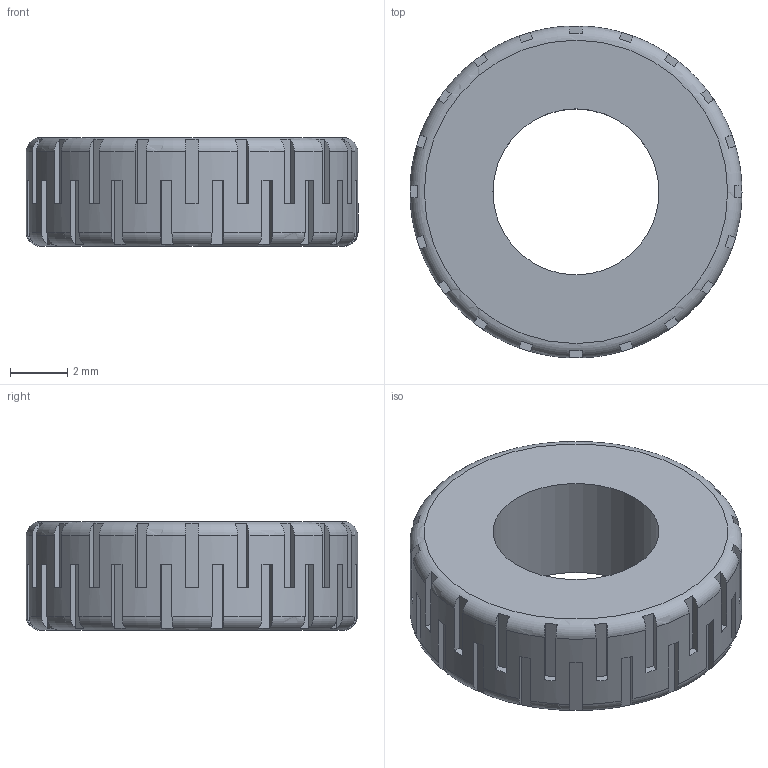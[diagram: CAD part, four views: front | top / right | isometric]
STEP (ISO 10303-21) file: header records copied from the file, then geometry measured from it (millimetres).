
FILE_DESCRIPTION(('Open CASCADE Model'),'2;1');
FILE_NAME('Open CASCADE Shape Model','2026-10-09T16:33:03',('Author'),( 'Open CASCADE'),'Open CASCADE STEP processor 8.0','build123d', 'Unknown');
FILE_SCHEMA(('AUTOMOTIVE_DESIGN { 1 0 10303 214 1 1 1 1 }'));
Length unit declared in the file: millimetre
Products named in the file (1): COMPOUND
Bounding box: 11.6 x 11.6 x 3.8 mm (x, y, z)
Volume: 288.5 mm3; surface area: 394.9 mm2
Topology: 1 solids, 1 shells, 166 faces, 491 edges, 327 vertices
Faces by surface type: plane 162, cylinder 2, torus 2
Full cylindrical faces by diameter (mm): 5.8 x1, 11.6 x1
Entity records: 14275 total; most frequent: CARTESIAN_POINT 5376, DIRECTION 1372, ORIENTED_EDGE 982, PCURVE 982, DEFINITIONAL_REPRESENTATION 982, LINE 817, VECTOR 817, B_SPLINE_CURVE_WITH_KNOTS 523
